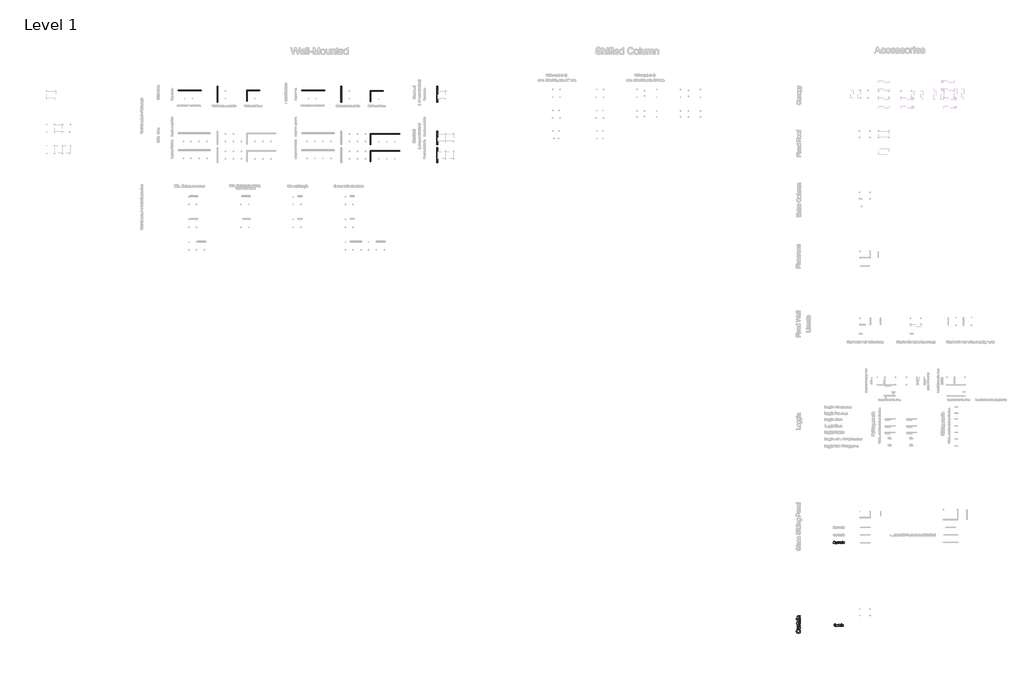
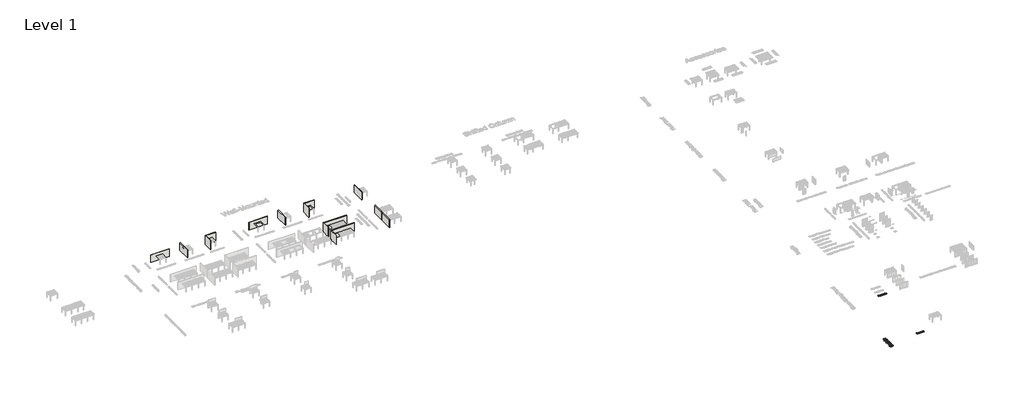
# One storey, part 5 of 80: 15 walls, 3 proxies.
"""IFC4 building model written with IfcOpenShell, lengths in millimetres."""

from ifc_helpers import new_model, si_unit, origin, origin_with_axes, place, context, project, spatial, polyline, outline, extrude, faceted_brep, element, save

model = new_model("IFC4")

# Units and contexts
model_context = context("Model", 3, world=origin())
ifc_project = project(units=[si_unit("LENGTHUNIT", "METRE", prefix="MILLI")], contexts=[model_context])

# Site, building, storey
site = spatial("IfcSite", under=ifc_project)
building = spatial("IfcBuilding", under=site)
storey = spatial("IfcBuildingStorey", under=building, Name="Level 1", Elevation=0.0)

# Proxies
placement = place(None, origin())
element("IfcBuildingElementProxy", 1, Name="1500mm", ObjectType="1500mm", at=placement, inside=storey, context=model_context, shape_type="SweptSolid", body=[
    extrude(outline(polyline([(360302.6369633, -132823.3180514), (360351.1973866, -132634.9624699), (360411.6133821, -132652.0517382), (360468.3333131, -132672.2335145), (360521.3571798, -132695.5077988), (360570.684982, -132721.8745912), (360616.3167198, -132751.3338916), (360658.2523932, -132783.8857), (360696.4920021, -132819.5300165), (360731.0355466, -132858.2668409), (360761.6875894, -132899.676558), (360788.2526932, -132943.3395523), (360810.7308579, -132989.2558238), (360829.1220836, -133037.4253726), (360843.4263702, -133087.8481985), (360853.6437178, -133140.5243017), (360859.7741264, -133195.4536821), (360861.8175959, -133252.6363398), (360860.2713419, -133311.4715923), (360855.6325799, -133367.4959964), (360847.9013098, -133420.7095522), (360837.0775317, -133471.1122596), (360823.1612457, -133518.7041187), (360806.1524515, -133563.4851294), (360786.0511494, -133605.4552917), (360762.8573392, -133644.6146056), (360736.7319694, -133681.2418568), (360707.8359883, -133715.6158307), (360676.169396, -133747.7365274), (360641.7321923, -133777.6039469), (360604.5243774, -133805.2180891), (360564.5459512, -133830.5789542), (360521.7969137, -133853.686542), (360476.277265, -133874.5408526), (360380.7429094, -133909.0642786), (360281.75966, -133933.7238686), (360179.327517, -133948.5196226), (360073.4464803, -133953.4515406), (359959.8399216, -133947.8758291), (359853.7289586, -133931.1486946), (359803.4843255, -133918.6033438), (359755.1135913, -133903.2701372), (359708.616756, -133885.1490748), (359663.9938196, -133864.2401567), (359621.6212864, -133840.7618129), (359581.8756605, -133814.9324731), (359544.756942, -133786.7521374), (359510.2651309, -133756.2208059), (359478.4002271, -133723.3384785), (359449.1622308, -133688.1051552), (359422.5511417, -133650.5208361), (359398.5669601, -133610.5855211), (359358.8931862, -133526.2945589), (359330.5547763, -133437.8649243), (359313.5517303, -133345.2966173), (359307.8840483, -133248.5896378), (359309.7177101, -133193.6056499), (359315.2186956, -133140.8576948), (359324.3870047, -133090.3457724), (359337.2226374, -133042.0698828), (359353.7255938, -132996.0300259), (359373.8958738, -132952.2262018), (359397.7334775, -132910.6584104), (359425.2384048, -132871.3266518), (359456.0715145, -132834.5643189), (359489.8936654, -132800.704805), (359526.7048576, -132769.7481099), (359566.5050909, -132741.6942337), (359609.2943655, -132716.5431764), (359655.0726812, -132694.2949379), (359703.8400382, -132674.9495183), (359755.5964364, -132658.5069176), (359800.4780398, -132846.8624991), (359726.4072994, -132876.5229849), (359663.1200999, -132912.1615532), (359610.6164414, -132953.7782039), (359568.8963239, -133001.3729371), (359537.1090202, -133055.2216641), (359514.4038033, -133115.6002966), (359500.7806732, -133182.5088344), (359496.2396298, -133255.9472777), (359501.2750146, -133340.4451735), (359516.3811691, -133417.7233851), (359541.5580931, -133487.7819126), (359576.8057868, -133550.6207559), (359620.5377589, -133605.4466695), (359671.1675185, -133651.4664078), (359728.6950655, -133688.6799709), (359793.1203999, -133717.0873587), (359861.5234584, -133738.0911213), (359930.9841776, -133753.093809), (360001.5025576, -133762.0954215), (360073.0785983, -133765.095959), (360163.0257461, -133761.5435985), (360247.086782, -133750.886517), (360325.261706, -133733.1247144), (360397.550518, -133708.2581908), (360462.5161791, -133675.8845752), (360518.7216502, -133635.6014967), (360566.1669312, -133587.4089554), (360604.8520223, -133531.3069511), (360634.8688938, -133470.02011), (360656.3095164, -133406.273058), (360669.1738899, -133340.0657952), (360673.4620144, -133271.3983215), (360667.6218877, -133189.5100887), (360660.3217294, -133151.023309), (360650.1015077, -133114.1747538), (360636.9612227, -133078.9644232), (360620.9008743, -133045.392317), (360601.9204626, -133013.4584354), (360580.0199876, -132983.1627783), (360555.2454345, -132954.8732277), (360527.6427886, -132928.9576656), (360497.2120498, -132905.416092), (360463.9532181, -132884.2485068), (360427.8662937, -132865.4549102), (360388.9512764, -132849.0353021), (360302.6369633, -132823.3180514)])), origin_with_axes(), (0.0, 0.0, 1.0), 5.0),
    extrude(outline(polyline([(360838.2731482, -131693.1845622), (360648.0781567, -131693.1845622), (360698.1733378, -131725.8570819), (360741.5891614, -131761.3347018), (360778.3256275, -131799.6174219), (360808.3827361, -131840.7052423), (360831.7604873, -131884.5981628), (360848.458881, -131931.2961836), (360858.4779172, -131980.7993046), (360861.8175959, -132033.1075258), (360859.4723482, -132079.7710576), (360852.436605, -132124.8480983), (360840.7103665, -132168.3386479), (360824.2936324, -132210.2427064), (360804.3360342, -132248.7093676), (360781.987203, -132281.887725), (360757.2471388, -132309.7777788), (360730.1158417, -132332.3795288), (360700.2024369, -132350.8541028), (360667.11605, -132366.3626281), (360630.8566808, -132378.9051049), (360591.4243295, -132388.4815331), (360520.0552224, -132396.758878), (360416.3124998, -132399.5179929), (359731.6841067, -132399.5179929), (359731.6841067, -132211.1624114), (360327.6529389, -132211.1624114), (360446.8467054, -132208.311326), (360519.6873404, -132199.7580696), (360553.6359508, -132188.4801872), (360583.7447928, -132172.3048757), (360610.0138665, -132151.2321351), (360632.4431719, -132125.2619655), (360650.3889155, -132095.1761161), (360663.2073038, -132061.7563361), (360670.8983367, -132025.0026255), (360673.4620144, -131984.9149844), (360670.8408552, -131943.6317267), (360662.9773775, -131903.6590487), (360649.8715815, -131864.9969503), (360631.5234669, -131827.6454314), (360608.6573017, -131793.6278432), (360581.9973533, -131764.9675365), (360551.5436219, -131741.6645114), (360517.2961074, -131723.7187678), (360477.0705105, -131710.3600529), (360428.6825319, -131700.8181136), (360372.1321714, -131695.0929501), (360307.4194292, -131693.1845622), (359731.6841067, -131693.1845622), (359731.6841067, -131504.8289807), (360838.2731482, -131504.8289807), (360838.2731482, -131693.1845622)])), origin_with_axes(), (0.0, 0.0, 1.0), 5.0),
    extrude(outline(polyline([(360681.1875363, -130139.2510146), (360843.7913782, -130115.7065669), (360857.3110415, -130190.2946414), (360861.8175959, -130256.605371), (360859.8632228, -130304.6829493), (360854.0001035, -130347.0123714), (360844.228238, -130383.5936373), (360830.5476263, -130414.426747), (360813.6940324, -130440.3164424), (360794.4032203, -130462.0674654), (360772.67519, -130479.6798159), (360748.5099414, -130493.1534939), (360716.1133332, -130503.1322931), (360669.6912239, -130510.2600067), (360609.2436136, -130514.5366349), (360534.7705022, -130515.9621776), (359920.0396883, -130515.9621776), (359920.0396883, -130657.2288638), (359766.2650143, -130657.2288638), (359731.6841067, -130657.2288638), (359731.6841067, -130515.9621776), (359462.7623683, -130515.9621776), (359352.0298877, -130327.6065961), (359731.6841067, -130327.6065961), (359731.6841067, -130139.2510146), (359920.0396883, -130139.2510146), (359920.0396883, -130327.6065961), (360529.2522723, -130327.6065961), (360591.2403885, -130325.1233926), (360626.373119, -130317.6737822), (360645.8248795, -130304.6599567), (360660.7700856, -130285.4841077), (360670.2890322, -130258.3068253), (360673.4620144, -130221.2886995), (360681.1875363, -130139.2510146)])), origin_with_axes(), (0.0, 0.0, 1.0), 5.0),
    extrude(outline(polyline([(360838.2731482, -131245.8400561), (359731.6841067, -131245.8400561), (359731.6841067, -131081.0289222), (359895.3915946, -131081.0289222), (359843.0603808, -131049.9888789), (359800.4780398, -131020.144452), (359767.6445718, -130991.4956417), (359744.5599766, -130964.0424478), (359728.6260877, -130936.5432686), (359717.2447384, -130907.7565025), (359710.4159289, -130877.6821494), (359708.1396591, -130846.3202093), (359711.7724938, -130799.5991959), (359722.6709979, -130752.5103005), (359740.8351714, -130705.0535232), (359766.2650143, -130657.2288638), (359935.1228501, -130720.136685), (359918.2232709, -130753.2460645), (359906.152143, -130786.3554441), (359898.9094662, -130819.4648237), (359896.4952406, -130852.5742032), (359898.8174957, -130881.4414435), (359905.784261, -130908.8141632), (359917.3955364, -130934.6923623), (359933.6513221, -130959.0760408), (359954.0227876, -130981.0454937), (359977.9811025, -130999.6810161), (360005.5262669, -131014.9826078), (360036.6582807, -131026.9502689), (360088.0697896, -131040.3089839), (360141.8725314, -131049.8509231), (360198.0665061, -131055.5760867), (360256.6517139, -131057.4844745), (360838.2731482, -131057.4844745), (360838.2731482, -131245.8400561)])), origin_with_axes(), (0.0, 0.0, 1.0), 5.0),
    extrude(outline(polyline([(360697.0064621, -129244.5620023), (360738.9220169, -129289.2251758), (360774.1697106, -129334.5551354), (360802.7495431, -129380.5518811), (360824.6615144, -129427.2154129), (360840.9173001, -129475.0745612), (360852.5285755, -129524.6581564), (360859.4953408, -129575.9661984), (360861.8175959, -129628.9986873), (360856.2303881, -129712.8642859), (360849.2463784, -129750.925702), (360839.4687647, -129786.406196), (360826.8975472, -129819.3057678), (360811.5327257, -129849.6244176), (360793.3743004, -129877.3621452), (360772.4222711, -129902.5189507), (360749.2974388, -129924.8936486), (360724.6206043, -129944.2850535), (360698.3917677, -129960.6931653), (360670.6109289, -129974.117984), (360641.278088, -129984.5595097), (360610.3932448, -129992.0177423), (360543.9675521, -129997.9843284), (360504.029363, -129995.7310512), (360465.8845986, -129988.9712196), (360429.533259, -129977.7048335), (360394.975344, -129961.9318929), (360362.9696105, -129942.4916287), (360334.2748148, -129920.2232717), (360308.8909572, -129895.1268218), (360286.8180375, -129867.2022791), (360250.9495429, -129804.8922662), (360225.0138623, -129735.3165839), (360210.574494, -129667.5343263), (360196.6869486, -129572.34486), (360182.4315213, -129468.7400931), (360166.888507, -129379.7586355), (360150.0579058, -129305.4004873), (360131.9397175, -129245.6656483), (360090.00117, -129244.5620023), (360044.3378174, -129247.8039624), (360005.9401341, -129257.5298426), (359974.8081203, -129273.7396431), (359950.9417759, -129296.4333636), (359927.1214167, -129335.6587814), (359910.1068744, -129383.4374555), (359899.898149, -129439.769386), (359896.4952406, -129504.6545729), (359898.7600141, -129564.9872201), (359905.5543347, -129616.8585814), (359916.8782024, -129660.2686569), (359932.7316171, -129695.2174464), (359954.3561806, -129723.9352347), (359982.9934947, -129748.6523062), (360018.6435593, -129769.3686611), (360061.3063744, -129786.0842992), (360037.7619267, -129974.4398807), (359983.4993324, -129960.1039792), (359934.7549681, -129941.7443684), (359891.5288336, -129919.3610483), (359853.8209291, -129892.9540188), (359820.8724979, -129861.3851451), (359791.9247835, -129823.5162922), (359766.9777857, -129779.3474602), (359746.0315046, -129728.878649), (359729.4538221, -129673.1330304), (359717.6126204, -129613.1337762), (359710.5078994, -129548.8808865), (359708.1396591, -129480.3743612), (359710.2319879, -129413.4083418), (359716.5089744, -129353.0412056), (359726.9706187, -129299.2729528), (359741.6169206, -129252.1035832), (359759.4247084, -129211.1422223), (359779.3708104, -129175.9979955), (359801.4552264, -129146.6709027), (359825.6779565, -129123.1609439), (359852.636809, -129104.100058), (359882.929592, -129088.1201839), (359916.5563056, -129075.2213214), (359953.5169498, -129065.4034707), (360018.632063, -129058.5056833), (360118.3280837, -129056.2064208), (360352.6689146, -129056.2064208), (360556.7974367, -129053.8151878), (360679.8999493, -129046.6414889), (360760.788003, -129032.4780321), (360838.2731482, -129009.1175254), (360838.2731482, -129197.4731069), (360806.8192376, -129214.2117377), (360772.7901531, -129227.6394305), (360736.1858946, -129237.7561854), (360697.0064621, -129244.5620023)]), holes=[polyline([(360320.295299, -129244.5620023), (360336.5970699, -129301.4917411), (360351.6572391, -129371.1134087), (360378.0527723, -129548.4325303), (360392.4921406, -129646.1511853), (360408.5869779, -129710.4845492), (360429.4642811, -129752.6530229), (360442.8689813, -129769.6330762), (360458.2510472, -129783.8770072), (360475.0586559, -129795.1433933), (360492.7399843, -129803.190812), (360511.2950324, -129808.0192632), (360530.7238003, -129809.6287469), (360559.9934115, -129806.1223716), (360586.733834, -129795.6032458), (360610.9450678, -129778.0713695), (360632.6271129, -129753.5267426), (360650.4923823, -129722.1992915), (360663.253289, -129684.3189423), (360670.9098331, -129639.8856951), (360673.4620144, -129588.8995498), (360670.6454179, -129536.8442475), (360662.1956283, -129487.7320011), (360648.1126457, -129441.5628107), (360628.39647, -129398.3366763), (360604.6795776, -129359.3411848), (360578.5944449, -129325.8639232), (360550.1410718, -129297.9048916), (360519.3194584, -129275.4640899), (360491.7283088, -129262.4272717), (360458.2510472, -129253.1152587), (360418.8876737, -129247.5280509), (360373.6381883, -129245.6656483), (360320.295299, -129244.5620023)])]), origin_with_axes(), (0.0, 0.0, 1.0), 5.0),
    extrude(outline(polyline([(360838.2731482, -128797.2174962), (359731.6841067, -128797.2174962), (359731.6841067, -128608.8619146), (360838.2731482, -128608.8619146), (360838.2731482, -128797.2174962)])), origin_with_axes(), (0.0, 0.0, 1.0), 5.0),
    extrude(outline(polyline([(359519.7840775, -128797.2174962), (359331.428496, -128797.2174962), (359331.428496, -128608.8619146), (359519.7840775, -128608.8619146), (359519.7840775, -128797.2174962)])), origin_with_axes(), (0.0, 0.0, 1.0), 5.0),
    extrude(outline(polyline([(360838.2731482, -128326.3285424), (359731.6841067, -128326.3285424), (359731.6841067, -128137.9729608), (359886.1945447, -128137.9729608), (359844.4629309, -128106.8984285), (359808.2955322, -128072.5359509), (359777.6923488, -128034.885528), (359752.6533805, -127993.9471597), (359733.1786273, -127949.7208461), (359719.2680894, -127902.2065872), (359710.9217666, -127851.4043829), (359708.1396591, -127797.3142333), (359710.38144, -127749.9149375), (359717.1067827, -127704.4700148), (359728.3156872, -127660.9794651), (359744.0081536, -127619.4432886), (359763.344951, -127581.43648), (359785.4868485, -127548.534034), (359810.4338463, -127520.7359508), (359838.1859443, -127498.0422302), (359868.7086536, -127479.4067079), (359901.9674853, -127463.7832194), (359937.9624392, -127451.1717648), (359976.6935155, -127441.572344), (360048.1545931, -127434.1227335), (360158.7951031, -127431.6395301), (360838.2731482, -127431.6395301), (360838.2731482, -127619.9951116), (360184.1789608, -127619.9951116), (360086.7822026, -127625.421371), (360048.6374382, -127632.2041953), (360017.528417, -127641.7001493), (359991.3283212, -127654.6335007), (359967.9103329, -127671.7285172), (359947.2744522, -127692.9851987), (359929.4206791, -127718.4035453), (359915.0157998, -127747.1098373), (359904.7266002, -127778.2303548), (359898.5530805, -127811.7650979), (359896.4952406, -127847.7140666), (359901.1167581, -127904.9082206), (359914.9813108, -127958.0326799), (359938.0888987, -128007.0874447), (359970.4395216, -128052.0725149), (359991.0006762, -128072.2054319), (360015.7119996, -128089.65396), (360044.5734918, -128104.4180992), (360077.5851527, -128116.4978494), (360114.7469824, -128125.8932106), (360156.0589808, -128132.604183), (360251.1334839, -128137.9729608), (360838.2731482, -128137.9729608), (360838.2731482, -128326.3285424)])), origin_with_axes(), (0.0, 0.0, 1.0), 5.0),
])
element("IfcBuildingElementProxy", 2, Name="800mm Arial", ObjectType="800mm Arial", at=placement, inside=storey, context=model_context, shape_type="SweptSolid", body=[
    extrude(outline(polyline([(374027.4741172, -131062.0416885), (374127.3977044, -131087.8032384), (374107.625227, -131149.944439), (374081.2903851, -131204.2425162), (374048.3931787, -131250.6974701), (374008.9336078, -131289.3093006), (373963.8021047, -131319.6632859), (373913.8891019, -131341.3447039), (373859.1945993, -131354.3535547), (373799.7185969, -131358.6898383), (373738.7849689, -131355.408656), (373683.816018, -131345.5651093), (373634.8117441, -131329.1591981), (373591.7721472, -131306.1909223), (373554.1056387, -131277.0018178), (373521.22063, -131241.9334201), (373493.117121, -131200.9857294), (373469.7951119, -131154.1587456), (373451.4802601, -131103.4772874), (373438.398223, -131050.9661737), (373430.5490008, -130996.6254045), (373427.9325934, -130940.4549798), (373430.8905365, -130880.1861266), (373439.7643658, -130823.8937249), (373454.5540813, -130771.5777744), (373475.2596831, -130723.2382754), (373501.4176583, -130679.6741772), (373532.5644943, -130641.6844296), (373568.700191, -130609.2690324), (373609.8247484, -130582.4279858), (373654.5415295, -130561.3808484), (373701.4538973, -130546.3471788), (373750.5618517, -130537.326977), (373801.8653927, -130534.3202431), (373859.0177326, -130538.2113106), (373911.4251658, -130549.8845128), (373959.0876923, -130569.33985), (374002.0053122, -130596.5773219), (374039.4705586, -130630.8772642), (374070.7759647, -130671.5200124), (374095.9215305, -130718.5055664), (374114.907256, -130771.8339262), (374014.9836687, -130795.6438435), (373999.2486312, -130756.3489416), (373980.3421907, -130722.7747626), (373958.2643473, -130694.9213066), (373933.015101, -130672.7885736), (373904.4480794, -130655.9252484), (373872.4169099, -130643.8800162), (373836.9215927, -130636.6528769), (373797.9621276, -130634.2438304), (373753.1355671, -130636.9151275), (373712.1390856, -130644.9290187), (373674.9726829, -130658.2855041), (373641.6363592, -130676.9845836), (373612.5509351, -130700.1846157), (373588.1372315, -130727.0439589), (373568.3952484, -130757.5626131), (373553.3249857, -130791.7405784), (373542.1823835, -130828.0287464), (373534.2233819, -130864.8780087), (373529.447981, -130902.2883654), (373527.8561807, -130940.2598165), (373529.7407259, -130987.9772327), (373535.3943615, -131032.5720368), (373544.8170874, -131074.0442288), (373558.0089038, -131112.3938087), (373575.1832704, -131146.85842), (373596.553647, -131176.6757063), (373622.1200335, -131201.8456675), (373651.8824302, -131222.3683037), (373684.3954089, -131238.2924056), (373718.2135419, -131249.6667642), (373753.3368292, -131256.4913793), (373789.7652708, -131258.766251), (373833.2073919, -131255.6680343), (373873.1731675, -131246.3733842), (373909.6625976, -131230.8823007), (373942.6756822, -131209.1947839), (373971.4317683, -131181.4084152), (373995.1502028, -131147.6207765), (374013.8309858, -131107.8318676), (374027.4741172, -131062.0416885)])), origin_with_axes(), (0.0, 0.0, 1.0), 5.0),
    extrude(outline(polyline([(374627.0156409, -131346.1993899), (374627.0156409, -131245.2999863), (374609.6827042, -131271.8757329), (374590.8616477, -131294.9080466), (374570.5524713, -131314.3969274), (374548.7551751, -131330.3423753), (374525.469759, -131342.7443904), (374500.6962232, -131351.6029725), (374474.4345675, -131356.9181219), (374446.684792, -131358.6898383), (374398.0159549, -131353.7131753), (374352.713684, -131338.7831861), (374314.7056398, -131316.3394116), (374287.9194829, -131288.8213925), (374269.891277, -131255.3996848), (374258.1570863, -131215.2448448), (374253.765913, -131177.3831731), (374252.3021886, -131122.3471348), (374252.3021886, -130759.1483145), (374352.2257759, -130759.1483145), (374352.2257759, -131075.31279), (374353.7382911, -131138.545685), (374358.2758368, -131177.1880098), (374364.2588104, -131195.1979191), (374372.8398948, -131211.1708118), (374384.0190901, -131225.1066881), (374397.7963962, -131237.0055479), (374413.7570913, -131246.5258555), (374431.4864534, -131253.3260752), (374472.2511786, -131258.766251), (374515.3578628, -131253.2040982), (374555.6834707, -131236.5176398), (374573.7299731, -131224.3870236), (374588.9344105, -131210.2437864), (374601.296783, -131194.087928), (374610.8170906, -131175.9194486), (374622.9660033, -131128.9094993), (374627.0156409, -131064.5788109), (374627.0156409, -130759.1483145), (374726.9392282, -130759.1483145), (374726.9392282, -131346.1993899), (374627.0156409, -131346.1993899)])), origin_with_axes(), (0.0, 0.0, 1.0), 5.0),
    extrude(outline(polyline([(375451.3852361, -131262.8646794), (375463.8756845, -131349.1268387), (375424.3063342, -131356.2990884), (375389.1281573, -131358.6898383), (375341.166787, -131354.5426191), (375305.4031203, -131342.1009615), (375280.1294786, -131322.9261716), (375263.6381834, -131298.5795553), (375254.563092, -131256.7658276), (375251.5380615, -131185.1897033), (375251.5380615, -130859.0719018), (375176.595371, -130859.0719018), (375176.595371, -130777.4936606), (375176.595371, -130759.1483145), (375251.5380615, -130759.1483145), (375251.5380615, -130616.4839741), (375351.4616488, -130557.7398339), (375351.4616488, -130759.1483145), (375451.3852361, -130759.1483145), (375451.3852361, -130859.0719018), (375351.4616488, -130859.0719018), (375351.4616488, -131182.2622545), (375352.7790008, -131215.1472632), (375356.7310567, -131233.7853542), (375363.6349569, -131244.1046114), (375373.8078416, -131252.0331187), (375388.2255272, -131257.0829679), (375407.8638299, -131258.766251), (375451.3852361, -131262.8646794)])), origin_with_axes(), (0.0, 0.0, 1.0), 5.0),
    extrude(outline(polyline([(374864.3341607, -131346.1993899), (374864.3341607, -130759.1483145), (374951.7672996, -130759.1483145), (374951.7672996, -130845.9959636), (374984.0668186, -130795.6438435), (374999.2651571, -130778.2255229), (375013.8292152, -130765.9790285), (375043.6891934, -130751.4881567), (375076.2814572, -130746.6578661), (375101.0671908, -130748.5851033), (375126.0480876, -130754.3668148), (375151.2241477, -130764.0030005), (375176.595371, -130777.4936606), (375143.2224542, -130867.0735953), (375108.093068, -130851.7044889), (375072.9636819, -130846.5814534), (375043.128099, -130851.5093256), (375016.4639191, -130866.2929423), (374994.9227747, -130889.8101147), (374980.4562983, -130920.9386541), (374968.3073856, -130976.7553455), (374964.257748, -131037.6462815), (374964.257748, -131346.1993899), (374864.3341607, -131346.1993899)])), origin_with_axes(), (0.0, 0.0, 1.0), 5.0),
    extrude(outline(polyline([(375926.0222757, -131271.2566994), (375878.2804641, -131312.1921924), (375853.8789582, -131327.3539379), (375829.1237189, -131338.9783494), (375777.4298514, -131353.7619661), (375722.0766727, -131358.6898383), (375677.5855491, -131355.7257963), (375638.5711944, -131346.8336705), (375605.0336086, -131332.0134607), (375576.9727916, -131311.265167), (375554.8156631, -131285.9061413), (375538.9891428, -131257.2537358), (375529.4932306, -131225.3079502), (375526.3279265, -131190.0687847), (375531.1094263, -131148.6453836), (375545.4539257, -131111.0276659), (375567.5805599, -131078.8257286), (375595.7084642, -131053.6496685), (375628.7642408, -131034.621251), (375665.6744916, -131020.8622414), (375752.1318142, -131005.8346707), (375854.299779, -130990.0264469), (375925.4367859, -130971.4859375), (375926.0222757, -130949.2373263), (375924.3023995, -130925.0126871), (375919.1427709, -130904.6425222), (375910.5433899, -130888.1268316), (375898.5042566, -130875.4656154), (375877.6949743, -130862.8287945), (375852.3481464, -130853.8024939), (375822.4637728, -130848.3867135), (375788.0418534, -130846.5814534), (375728.5170602, -130851.3873486), (375705.487796, -130857.3947176), (375686.9472866, -130865.8050342), (375671.7123549, -130877.2769743), (375658.5998236, -130892.4692141), (375647.6096927, -130911.3817534), (375638.7419623, -130934.0145923), (375538.818375, -130921.5241439), (375556.1635094, -130866.8784321), (375568.0379738, -130843.9467495), (375582.0470363, -130823.9425157), (375598.7944832, -130806.4632065), (375618.8841009, -130791.1062978), (375642.3158894, -130777.8717895), (375669.0898486, -130766.7596815), (375730.4930882, -130751.68332), (375800.9226283, -130746.6578661), (375868.4735105, -130751.0978302), (375922.021429, -130764.4177225), (375962.3958276, -130784.4463517), (375990.4261503, -130809.0125266), (376009.0154505, -130839.3848083), (376021.0667816, -130876.8317582), (376024.7260927, -130911.3756546), (376025.945863, -130964.264897), (376025.945863, -131088.5838914), (376027.2144242, -131196.8751033), (376031.0201077, -131262.181608), (376038.5338931, -131305.093129), (376050.9267598, -131346.1993899), (375951.0031725, -131346.1993899), (375934.9997855, -131311.4603302), (375926.0222757, -131271.2566994)]), holes=[polyline([(375926.0222757, -131071.4095248), (375858.8861155, -131088.0471924), (375764.8174259, -131102.0501561), (375712.9771859, -131109.7103139), (375678.8480114, -131118.2487064), (375656.4774232, -131129.3242212), (375639.9129418, -131144.595746), (375629.6668708, -131162.8923013), (375626.2515138, -131183.0429075), (375628.1116636, -131198.5705841), (375633.692113, -131212.7565133), (375642.9928619, -131225.6006951), (375656.0139104, -131237.1031295), (375672.6332815, -131246.5807452), (375692.7289981, -131253.3504706), (375743.3494677, -131258.766251), (375797.0193632, -131252.7893763), (375821.5123519, -131245.3182829), (375844.4440345, -131234.8587521), (375882.891196, -131208.4385262), (375909.6285622, -131176.9928466), (375921.48473, -131144.595746), (375925.4367859, -131099.708197), (375926.0222757, -131071.4095248)])]), origin_with_axes(), (0.0, 0.0, 1.0), 5.0),
    extrude(outline(polyline([(376163.3407955, -131346.1993899), (376163.3407955, -130759.1483145), (376263.2643828, -130759.1483145), (376263.2643828, -131346.1993899), (376163.3407955, -131346.1993899)])), origin_with_axes(), (0.0, 0.0, 1.0), 5.0),
    extrude(outline(polyline([(376163.3407955, -130646.7342788), (376163.3407955, -130546.8106915), (376263.2643828, -130546.8106915), (376263.2643828, -130646.7342788), (376163.3407955, -130646.7342788)])), origin_with_axes(), (0.0, 0.0, 1.0), 5.0),
    extrude(outline(polyline([(376413.1497638, -131346.1993899), (376413.1497638, -130759.1483145), (376513.0733511, -130759.1483145), (376513.0733511, -130841.1168822), (376529.5585474, -130818.9780503), (376547.7880153, -130799.7910627), (376567.7617548, -130783.5559193), (376589.479766, -130770.2726202), (376612.9420487, -130759.9411653), (376638.148603, -130752.5615546), (376693.7945265, -130746.6578661), (376743.0488534, -130751.4149705), (376788.155961, -130765.6862836), (376825.7736787, -130787.6909408), (376852.5598356, -130815.6480773), (376870.7344139, -130849.4845069), (376882.5173955, -130889.1270433), (376886.4694514, -130927.0375059), (376887.7868034, -130985.7328553), (376887.7868034, -131346.1993899), (376787.8632161, -131346.1993899), (376787.8632161, -130999.1991199), (376784.9845581, -130947.5296478), (376776.348584, -130910.7901648), (376760.4183832, -130884.4675206), (376735.657045, -130864.0485649), (376703.9186204, -130850.9482313), (376667.0571604, -130846.5814534), (376636.7153729, -130849.0331918), (376608.5325789, -130856.3884071), (376582.5087784, -130868.6470991), (376558.6439714, -130885.809268), (376538.706825, -130909.8265462), (376524.4660062, -130942.6505664), (376515.9215148, -130984.2813285), (376513.0733511, -131034.7188326), (376513.0733511, -131346.1993899), (376413.1497638, -131346.1993899)])), origin_with_axes(), (0.0, 0.0, 1.0), 5.0),
])
element("IfcBuildingElementProxy", 3, Name="800mm Arial", ObjectType="800mm Arial", at=placement, inside=storey, context=model_context, shape_type="SweptSolid", body=[
    extrude(outline(polyline([(373121.9166073, -100133.8617669), (373221.8401946, -100121.3713185), (373229.3051892, -100153.4939707), (373240.1855407, -100181.3596244), (373254.4812492, -100204.9682796), (373272.1923148, -100224.3199362), (373293.2821442, -100239.3901989), (373317.7141443, -100250.1546723), (373345.4883153, -100256.6133563), (373376.604657, -100258.766251), (373414.661492, -100255.7717148), (373448.2295721, -100246.7881061), (373477.3088973, -100231.8154251), (373501.8994676, -100210.8536715), (373521.4523863, -100184.9396504), (373535.4187569, -100155.1101664), (373543.7985792, -100121.3652196), (373546.5918533, -100083.70481), (373543.9754459, -100048.1119111), (373536.1262237, -100016.4710681), (373523.0441867, -99988.7822811), (373504.7293348, -99965.0455501), (373481.1206796, -99946.0049349), (373452.1572326, -99932.4044954), (373417.8389937, -99924.2442318), (373378.165963, -99921.5241439), (373329.6922892, -99925.8665263), (373290.4400792, -99938.8936737), (373259.0919812, -99958.8491167), (373234.330643, -99983.9763859), (373134.4070557, -99971.4859375), (373221.8401946, -99559.30114), (373609.0440954, -99559.30114), (373609.0440954, -99659.2247272), (373302.6377828, -99659.2247272), (373259.8970296, -99879.3688805), (373295.1605905, -99854.0952388), (373331.2779907, -99836.0426376), (373368.24923, -99825.2110768), (373406.0743087, -99821.6005566), (373454.7370469, -99826.0771138), (373499.4355315, -99839.5067854), (373540.1697624, -99861.8895713), (373576.9397397, -99893.2254717), (373607.3791088, -99931.599447), (373629.1215154, -99975.0964578), (373642.1669593, -100023.716504), (373646.5154406, -100077.4595858), (373642.5999778, -100129.2266395), (373630.8535893, -100177.3831731), (373611.2762751, -100221.9291863), (373583.8680353, -100262.8646794), (373563.9735808, -100285.323701), (373542.3470525, -100304.7881864), (373518.9884502, -100321.2581356), (373493.8977741, -100334.7335486), (373467.075024, -100345.2144253), (373438.5202001, -100352.7007659), (373376.2143304, -100358.6898383), (373324.6485388, -100354.8414628), (373278.0716079, -100343.2963364), (373236.4835377, -100324.0544591), (373199.8843283, -100297.1158309), (373169.4327614, -100263.8221991), (373146.287619, -100225.5153112), (373130.4489009, -100182.1951671), (373121.9166073, -100133.8617669)])), origin_with_axes(), (0.0, 0.0, 1.0), 5.0),
    extrude(outline(polyline([(374071.1906866, -100571.0274613), (374071.1906866, -99759.1483145), (374171.1142739, -99759.1483145), (374171.1142739, -99857.1202693), (374203.7065377, -99808.7929679), (374221.466394, -99789.8072424), (374240.2020667, -99774.2734669), (374260.4502545, -99762.1916416), (374282.7476566, -99753.5617663), (374307.0942728, -99748.3838412), (374333.4901032, -99746.6578661), (374368.3389422, -99749.0730114), (374401.0653808, -99756.3184473), (374431.6694189, -99768.3941738), (374460.1510567, -99785.3001909), (374485.8882111, -99806.5973813), (374508.2587994, -99831.8466276), (374527.2628215, -99861.0479298), (374542.9002774, -99894.201288), (374555.1101786, -99930.1723157), (374563.8315366, -99967.8266265), (374569.0643515, -100007.1642203), (374570.8086231, -100048.1850973), (374568.8386939, -100092.0419403), (374562.9289066, -100133.6422082), (374553.079261, -100172.9859009), (374539.2897571, -100210.0730185), (374521.7494595, -100243.9338435), (374500.6474324, -100273.5986585), (374475.9836758, -100299.0674635), (374447.7581899, -100320.3402584), (374417.3554138, -100337.1181996), (374386.1597871, -100349.1024433), (374354.1713096, -100356.2929895), (374321.3899813, -100358.6898383), (374297.8057216, -100357.0858403), (374275.4534299, -100352.2738462), (374254.3331062, -100344.2538562), (374234.4447506, -100333.0258701), (374199.3397598, -100303.9709403), (374171.1142739, -100268.1340873), (374171.1142739, -100571.0274613), (374071.1906866, -100571.0274613)]), holes=[polyline([(374171.1142739, -100057.3577704), (374173.8160652, -100105.5143039), (374181.9214392, -100146.9377051), (374195.4303959, -100181.6279739), (374214.3429352, -100209.5851104), (374237.1099488, -100231.1018594), (374262.1823284, -100246.4709658), (374289.560074, -100255.6924297), (374319.2431855, -100258.766251), (374349.3532167, -100255.5826504), (374377.2310681, -100246.0318485), (374402.8767398, -100230.1138454), (374426.2902317, -100207.8286411), (374445.8004585, -100178.8590952), (374459.7363347, -100142.8880675), (374468.0978605, -100099.915558), (374470.8850358, -100049.9415666), (374468.1649479, -100002.199755), (374460.0046842, -99960.8495401), (374446.4042448, -99925.8909217), (374427.3636296, -99897.3239001), (374404.5417263, -99875.1240797), (374379.5974226, -99859.2670651), (374352.5307184, -99849.7528563), (374323.3416139, -99846.5814534), (374294.2439921, -99849.9541184), (374266.8662466, -99860.0721135), (374241.2083772, -99876.9354386), (374217.270384, -99900.5440938), (374197.0770858, -99930.5809388), (374182.6533014, -99966.7288332), (374173.9990308, -100008.987777), (374171.1142739, -100057.3577704)])]), origin_with_axes(), (0.0, 0.0, 1.0), 5.0),
    extrude(outline(polyline([(375057.9361111, -100271.2566994), (375010.1942995, -100312.1921924), (374985.7927936, -100327.3539379), (374961.0375543, -100338.9783494), (374909.3436867, -100353.7619661), (374853.9905081, -100358.6898383), (374809.4993845, -100355.7257963), (374770.4850298, -100346.8336705), (374736.9474439, -100332.0134607), (374708.886627, -100311.265167), (374686.7294985, -100285.9061413), (374670.9029782, -100257.2537358), (374661.407066, -100225.3079502), (374658.2417619, -100190.0687847), (374663.0232617, -100148.6453836), (374677.3677611, -100111.0276659), (374699.4943953, -100078.8257286), (374727.6222996, -100053.6496685), (374760.6780762, -100034.621251), (374797.588327, -100020.8622414), (374884.0456496, -100005.8346707), (374986.2136144, -99990.0264469), (375057.3506213, -99971.4859375), (375057.9361111, -99949.2373263), (375056.2162349, -99925.0126871), (375051.0566063, -99904.6425222), (375042.4572253, -99888.1268316), (375030.418092, -99875.4656154), (375009.6088097, -99862.8287945), (374984.2619818, -99853.8024939), (374954.3776082, -99848.3867135), (374919.9556888, -99846.5814534), (374860.4308956, -99851.3873486), (374837.4016313, -99857.3947176), (374818.861122, -99865.8050342), (374803.6261903, -99877.2769743), (374790.513659, -99892.4692141), (374779.5235281, -99911.3817534), (374770.6557976, -99934.0145923), (374670.7322104, -99921.5241439), (374688.0773448, -99866.8784321), (374699.9518092, -99843.9467495), (374713.9608717, -99823.9425157), (374730.7083186, -99806.4632065), (374750.7979363, -99791.1062978), (374774.2297248, -99777.8717895), (374801.003684, -99766.7596815), (374862.4069236, -99751.68332), (374932.8364637, -99746.6578661), (375000.3873459, -99751.0978302), (375053.9352644, -99764.4177225), (375094.309663, -99784.4463517), (375122.3399857, -99809.0125266), (375140.9292859, -99839.3848083), (375152.980617, -99876.8317582), (375156.6399281, -99911.3756546), (375157.8596984, -99964.264897), (375157.8596984, -100088.5838914), (375159.1282596, -100196.8751033), (375162.9339431, -100262.181608), (375170.4477284, -100305.093129), (375182.8405952, -100346.1993899), (375082.9170079, -100346.1993899), (375066.9136209, -100311.4603302), (375057.9361111, -100271.2566994)]), holes=[polyline([(375057.9361111, -100071.4095248), (374990.7999509, -100088.0471924), (374896.7312613, -100102.0501561), (374844.8910213, -100109.7103139), (374810.7618468, -100118.2487064), (374788.3912586, -100129.3242212), (374771.8267772, -100144.595746), (374761.5807062, -100162.8923013), (374758.1653492, -100183.0429075), (374760.025499, -100198.5705841), (374765.6059484, -100212.7565133), (374774.9066973, -100225.6006951), (374787.9277458, -100237.1031295), (374804.5471169, -100246.5807452), (374824.6428335, -100253.3504706), (374875.2633031, -100258.766251), (374928.9331986, -100252.7893763), (374953.4261873, -100245.3182829), (374976.3578699, -100234.8587521), (375014.8050314, -100208.4385262), (375041.5423976, -100176.9928466), (375053.3985654, -100144.595746), (375057.3506213, -100099.708197), (375057.9361111, -100071.4095248)])]), origin_with_axes(), (0.0, 0.0, 1.0), 5.0),
    extrude(outline(polyline([(375295.2546309, -100346.1993899), (375295.2546309, -99759.1483145), (375395.1782182, -99759.1483145), (375395.1782182, -99841.1168822), (375411.6634145, -99818.9780503), (375429.8928825, -99799.7910627), (375449.866622, -99783.5559193), (375471.5846331, -99770.2726202), (375495.0469159, -99759.9411653), (375520.2534702, -99752.5615546), (375575.8993937, -99746.6578661), (375625.1537205, -99751.4149705), (375670.2608282, -99765.6862836), (375707.8785458, -99787.6909408), (375734.6647028, -99815.6480773), (375752.839281, -99849.4845069), (375764.6222626, -99889.1270433), (375768.5743186, -99927.0375059), (375769.8916706, -99985.7328553), (375769.8916706, -100346.1993899), (375669.9680833, -100346.1993899), (375669.9680833, -99999.1991199), (375667.0894252, -99947.5296478), (375658.4534512, -99910.7901648), (375642.5232503, -99884.4675206), (375617.7619122, -99864.0485649), (375586.0234876, -99850.9482313), (375549.1620275, -99846.5814534), (375518.82024, -99849.0331918), (375490.637446, -99856.3884071), (375464.6136456, -99868.6470991), (375440.7488386, -99885.809268), (375420.8116922, -99909.8265462), (375406.5708733, -99942.6505664), (375398.026382, -99984.2813285), (375395.1782182, -100034.7188326), (375395.1782182, -100346.1993899), (375295.2546309, -100346.1993899)])), origin_with_axes(), (0.0, 0.0, 1.0), 5.0),
    extrude(outline(polyline([(376318.3004211, -100171.3331121), (376416.2723759, -100183.8235605), (376401.250904, -100223.0635728), (376380.9722219, -100257.6440623), (376355.4363295, -100287.565029), (376324.643227, -100312.826473), (376288.9100545, -100332.8916953), (376248.5539524, -100347.223997), (376203.5749206, -100355.823378), (376153.9729592, -100358.6898383), (376091.9720322, -100353.7436695), (376036.7286329, -100338.9051632), (375988.2427614, -100314.1743193), (375946.5144176, -100279.5511378), (375912.9585352, -100235.9992374), (375888.9900478, -100184.4822365), (375874.6089554, -100125.0001353), (375869.8152579, -100057.5529336), (375874.6577462, -99987.8186626), (375889.1852111, -99926.3544345), (375913.3976526, -99873.1602494), (375929.1357395, -99849.664423), (375947.2950707, -99828.2361073), (375988.9136351, -99792.5456268), (376036.2895156, -99767.0524264), (376089.4227122, -99751.7565062), (376148.3132248, -99746.6578661), (376205.3069945, -99751.7443085), (376256.8483908, -99767.0036356), (376302.9374136, -99792.4358475), (376343.5740629, -99828.0409441), (376376.7457176, -99872.8675045), (376400.4397567, -99925.964108), (376414.6561802, -99987.3307544), (376419.394988, -100056.9674439), (376418.8094982, -100083.8999732), (375969.7388452, -100083.8999732), (375975.5266555, -100123.7742661), (375987.0351888, -100158.6962913), (376004.264445, -100188.6660488), (376027.2144242, -100213.6835388), (376054.6165652, -100233.4072254), (376085.2023067, -100247.4955729), (376118.971649, -100255.9485815), (376155.9245918, -100258.766251), (376209.1065792, -100253.5456339), (376253.8965465, -100237.8837826), (376273.1445227, -100225.89344), (376290.2944938, -100210.8048807), (376305.34646, -100192.6181048), (376318.3004211, -100171.3331121)]), holes=[polyline([(375969.7388452, -99983.9763859), (376319.4714007, -99983.9763859), (376314.3361675, -99955.7021092), (376305.9563452, -99931.1847251), (376294.3319337, -99910.4242337), (376279.4629331, -99893.420635), (376252.2132634, -99872.928493), (376221.2067011, -99858.2912488), (376186.443246, -99849.5089023), (376147.9228983, -99846.5814534), (376112.7874133, -99848.9173136), (376080.5671794, -99855.9248943), (376051.2621967, -99867.6041954), (376024.8724651, -99883.955217), (376002.7275343, -99904.2217014), (375986.1569541, -99927.6473911), (375975.1607244, -99954.2322859), (375969.7388452, -99983.9763859)])]), origin_with_axes(), (0.0, 0.0, 1.0), 5.0),
    extrude(outline(polyline([(376519.3185753, -100346.1993899), (376519.3185753, -99546.8106915), (376619.2421626, -99546.8106915), (376619.2421626, -100346.1993899), (376519.3185753, -100346.1993899)])), origin_with_axes(), (0.0, 0.0, 1.0), 5.0),
    extrude(outline(polyline([(376731.6561983, -100171.3331121), (376831.5797856, -100158.8426637), (376837.6176488, -100181.6279739), (376847.3392185, -100201.5834169), (376860.7444947, -100218.7089926), (376877.8334773, -100233.0047012), (376898.6549573, -100244.2753792), (376923.2577253, -100252.3258635), (376951.6417814, -100257.1561541), (376983.8071256, -100258.766251), (377015.9358767, -100257.2903289), (377043.6246637, -100252.8625625), (377066.8734866, -100245.4829519), (377085.6823454, -100235.151497), (377100.1976126, -100222.8318164), (377110.5656606, -100209.4875288), (377116.7864894, -100195.118634), (377118.860099, -100179.7251321), (377116.7742917, -100166.234472), (377110.5168698, -100154.2563272), (377100.0878333, -100143.7906976), (377085.4871822, -100134.8375832), (377048.0646278, -100122.1519715), (376982.636146, -100106.3437477), (376891.4461145, -100079.9723127), (376832.1652753, -100057.455352), (376794.0840449, -100032.8891771), (376778.9771891, -100017.6237511), (376766.4928395, -100000.3700995), (376749.7331949, -99961.9717288), (376744.1466467, -99919.7676746), (376748.6354016, -99881.0521636), (376762.1016663, -99845.3128923), (376783.3256704, -99813.9647942), (376811.0876436, -99788.422803), (376838.678849, -99772.3462298), (376874.6132836, -99758.8555697), (376916.1586618, -99749.707292), (376960.5826981, -99746.6578661), (377025.6208533, -99751.5613429), (377082.1694068, -99766.2717734), (377127.6424456, -99789.3498285), (377145.2559295, -99803.4869669), (377159.4540564, -99819.3561791), (377180.5316881, -99858.5108075), (377193.8027895, -99909.0336955), (377093.8792022, -99921.5241439), (377089.115999, -99904.8315866), (377081.2667768, -99890.0784642), (377070.3315355, -99877.2647766), (377056.3102753, -99866.3905239), (377039.1420076, -99857.7240556), (377018.7657439, -99851.533721), (376968.3892283, -99846.5814534), (376911.0112309, -99851.3141624), (376889.4944819, -99857.2300486), (376872.7592327, -99865.5122893), (376851.2424836, -99886.0044312), (376845.8632964, -99897.4214817), (376844.070234, -99909.6191852), (376847.0464736, -99924.9882917), (376855.9751926, -99938.6985105), (376871.2467174, -99950.9450048), (376893.2513746, -99960.7519584), (376979.3183707, -99982.0247534), (377067.6053488, -100008.1278389), (377125.9835579, -100029.0590982), (377164.7234643, -100051.5516635), (377194.0955344, -100082.3386672), (377204.8966009, -100100.8669788), (377212.6116483, -100121.5176909), (377217.2406768, -100144.2908034), (377218.7836863, -100169.1863163), (377216.9723273, -100194.1916085), (377211.5382504, -100218.4650385), (377202.4814556, -100242.0066064), (377189.8019427, -100264.8163119), (377173.7070729, -100285.9854264), (377154.4042071, -100304.6052209), (377131.8933452, -100320.6756953), (377106.1744874, -100334.1968496), (377077.9490014, -100344.9125322), (377047.9182553, -100352.5665911), (377016.0822491, -100357.1590265), (376982.4409828, -100358.6898383), (376928.6613079, -100355.737994), (376881.6879516, -100346.8824613), (376841.5209139, -100332.12324), (376808.1601948, -100311.4603302), (376780.9105251, -100284.9913136), (376759.0766358, -100252.8137717), (376742.6585268, -100214.9277045), (376731.6561983, -100171.3331121)])), origin_with_axes(), (0.0, 0.0, 1.0), 5.0),
])

# Walls
element("IfcWall", 4, ObjectType="Generic - 200mm", at=placement, inside=storey, context=model_context, shape_type="Brep", body=[
    faceted_brep([(153674.0111744, 69228.5861401, 0.0), (153674.0111744, 65078.5861401, 0.0), (153674.0111744, 65078.5861401, 4500.0), (153674.0111744, 69228.5861401, 4500.0), (153874.0111744, 69228.5861401, 0.0), (153874.0111744, 69228.5861401, 4500.0), (153874.0111744, 69028.5861401, 4500.0), (153874.0111744, 65078.5861401, 4500.0), (153874.0111744, 65078.5861401, 0.0), (153874.0111744, 69028.5861401, 0.0)], [[[0, 1, 2, 3]], [[4, 5, 6, 7, 8, 9]], [[1, 0, 4, 9, 8]], [[2, 1, 8, 7]], [[3, 2, 7, 6, 5]], [[0, 3, 5, 4]]]),
])
element("IfcWall", 5, ObjectType="Generic - 200mm", at=placement, inside=storey, context=model_context, shape_type="SweptSolid", body=[
    extrude(outline(polyline([(158534.3541686, 69028.5861401), (153874.0111744, 69028.5861401), (153874.0111744, 69228.5861401), (158534.3541686, 69228.5861401), (158534.3541686, 69028.5861401)])), origin_with_axes(), (0.0, 0.0, 1.0), 4500.0),
])
element("IfcWall", 6, ObjectType="Generic - 200mm", at=placement, inside=storey, context=model_context, shape_type="Brep", body=[
    faceted_brep([(199974.0111744, 46684.0685101, 0.0), (199974.0111744, 42534.0685101, 0.0), (199974.0111744, 42534.0685101, 4500.0), (199974.0111744, 46684.0685101, 4500.0), (200174.0111744, 46684.0685101, 0.0), (200174.0111744, 46684.0685101, 4500.0), (200174.0111744, 46484.0685101, 4500.0), (200174.0111744, 42534.0685101, 4500.0), (200174.0111744, 42534.0685101, 0.0), (200174.0111744, 46484.0685101, 0.0)], [[[0, 1, 2, 3]], [[4, 5, 6, 7, 8, 9]], [[1, 0, 4, 9, 8]], [[2, 1, 8, 7]], [[3, 2, 7, 6, 5]], [[0, 3, 5, 4]]]),
])
element("IfcWall", 7, ObjectType="Generic - 200mm", at=placement, inside=storey, context=model_context, shape_type="SweptSolid", body=[
    extrude(outline(polyline([(210874.0111744, 46484.0685101), (200174.0111744, 46484.0685101), (200174.0111744, 46684.0685101), (210874.0111744, 46684.0685101), (210874.0111744, 46484.0685101)])), origin_with_axes(), (0.0, 0.0, 1.0), 4500.0),
])
element("IfcWall", 8, ObjectType="Generic - 200mm", at=placement, inside=storey, context=model_context, shape_type="Brep", body=[
    faceted_brep([(199974.0111744, 69028.5861401, 0.0), (199974.0111744, 64878.5861401, 0.0), (199974.0111744, 64878.5861401, 4500.0), (199974.0111744, 69028.5861401, 4500.0), (200174.0111744, 69028.5861401, 0.0), (200174.0111744, 69028.5861401, 4500.0), (200174.0111744, 68828.5861401, 4500.0), (200174.0111744, 64878.5861401, 4500.0), (200174.0111744, 64878.5861401, 0.0), (200174.0111744, 68828.5861401, 0.0)], [[[0, 1, 2, 3]], [[4, 5, 6, 7, 8, 9]], [[1, 0, 4, 9, 8]], [[2, 1, 8, 7]], [[3, 2, 7, 6, 5]], [[0, 3, 5, 4]]]),
])
element("IfcWall", 9, ObjectType="Generic - 200mm", at=placement, inside=storey, context=model_context, shape_type="SweptSolid", body=[
    extrude(outline(polyline([(204834.3541686, 68828.5861401), (200174.0111744, 68828.5861401), (200174.0111744, 69028.5861401), (204834.3541686, 69028.5861401), (204834.3541686, 68828.5861401)])), origin_with_axes(), (0.0, 0.0, 1.0), 4500.0),
])
element("IfcWall", 10, ObjectType="Generic - 200mm", at=placement, inside=storey, context=model_context, shape_type="Brep", body=[
    faceted_brep([(199974.0111744, 53009.4960358, 0.0), (199974.0111744, 48859.4960358, 0.0), (199974.0111744, 48859.4960358, 4500.0), (199974.0111744, 53009.4960358, 4500.0), (200174.0111744, 53009.4960358, 0.0), (200174.0111744, 53009.4960358, 4500.0), (200174.0111744, 52809.4960358, 4500.0), (200174.0111744, 48859.4960358, 4500.0), (200174.0111744, 48859.4960358, 0.0), (200174.0111744, 52809.4960358, 0.0)], [[[0, 1, 2, 3]], [[4, 5, 6, 7, 8, 9]], [[1, 0, 4, 9, 8]], [[2, 1, 8, 7]], [[3, 2, 7, 6, 5]], [[0, 3, 5, 4]]]),
])
element("IfcWall", 11, ObjectType="Generic - 200mm", at=placement, inside=storey, context=model_context, shape_type="SweptSolid", body=[
    extrude(outline(polyline([(210874.0111744, 52809.4960358), (200174.0111744, 52809.4960358), (200174.0111744, 53009.4960358), (210874.0111744, 53009.4960358), (210874.0111744, 52809.4960358)])), origin_with_axes(), (0.0, 0.0, 1.0), 4500.0),
])
element("IfcWall", 12, ObjectType="Generic - 300mm", at=placement, inside=storey, context=model_context, shape_type="SweptSolid", body=[
    extrude(outline(polyline([(136663.165057, 69028.5861401), (128063.165057, 69028.5861401), (128063.165057, 69328.5861401), (136663.165057, 69328.5861401), (136663.165057, 69028.5861401)])), origin_with_axes(), (0.0, 0.0, 1.0), 3770.0),
])
element("IfcWall", 13, ObjectType="Generic - 300mm", at=placement, inside=storey, context=model_context, shape_type="SweptSolid", body=[
    extrude(outline(polyline([(142910.3328818, 70778.5861401), (142910.3328818, 64778.5861401), (142610.3328818, 64778.5861401), (142610.3328818, 70778.5861401), (142910.3328818, 70778.5861401)])), origin_with_axes(), (0.0, 0.0, 1.0), 3770.0),
])
element("IfcWall", 14, ObjectType="Generic - 300mm", at=placement, inside=storey, context=model_context, shape_type="SweptSolid", body=[
    extrude(outline(polyline([(182963.165057, 69028.5861401), (174363.165057, 69028.5861401), (174363.165057, 69328.5861401), (182963.165057, 69328.5861401), (182963.165057, 69028.5861401)])), origin_with_axes(), (0.0, 0.0, 1.0), 3770.0),
])
element("IfcWall", 15, ObjectType="Generic - 300mm", at=placement, inside=storey, context=model_context, shape_type="SweptSolid", body=[
    extrude(outline(polyline([(189210.3328818, 70778.5861401), (189210.3328818, 64778.5861401), (188910.3328818, 64778.5861401), (188910.3328818, 70778.5861401), (189210.3328818, 70778.5861401)])), origin_with_axes(), (0.0, 0.0, 1.0), 3770.0),
])
element("IfcWall", 16, ObjectType="Generic - 300mm", at=placement, inside=storey, context=model_context, shape_type="SweptSolid", body=[
    extrude(outline(polyline([(225153.165057, 47734.0685101), (225153.165057, 42134.0685101), (224853.165057, 42134.0685101), (224853.165057, 47734.0685101), (225153.165057, 47734.0685101)])), origin_with_axes(), (0.0, 0.0, 1.0), 3770.0),
])
element("IfcWall", 17, ObjectType="Generic - 300mm", at=placement, inside=storey, context=model_context, shape_type="SweptSolid", body=[
    extrude(outline(polyline([(225153.165057, 54009.4960358), (225153.165057, 48809.4960358), (224853.165057, 48809.4960358), (224853.165057, 54009.4960358), (225153.165057, 54009.4960358)])), origin_with_axes(), (0.0, 0.0, 1.0), 3770.0),
])
element("IfcWall", 18, ObjectType="Generic - 300mm", at=placement, inside=storey, context=model_context, shape_type="SweptSolid", body=[
    extrude(outline(polyline([(225153.165057, 70778.5861401), (225153.165057, 64778.5861401), (224853.165057, 64778.5861401), (224853.165057, 70778.5861401), (225153.165057, 70778.5861401)])), origin_with_axes(), (0.0, 0.0, 1.0), 3770.0),
])

save(model, "model.ifc")
